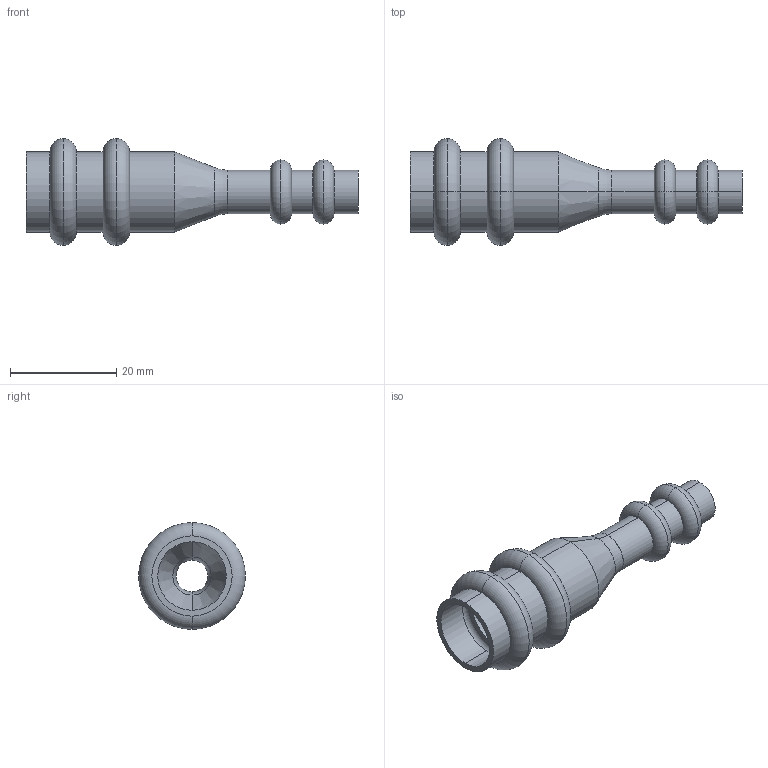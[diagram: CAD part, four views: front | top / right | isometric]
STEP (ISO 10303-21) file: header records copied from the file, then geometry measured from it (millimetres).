
FILE_DESCRIPTION(('starvars output'),'1');
FILE_NAME('cv20240422105238000011705.stp','10:52:38 2024/04/22',('Thomas Industrial Network Germany GmbH'),(' '),'Spatial InterOp 3D',' ',' ');
FILE_SCHEMA(('AUTOMOTIVE_DESIGN { 1 0 10303 214 3 1 1 }'));
Length unit declared in the file: millimetre
Products named in the file (1): 1
Bounding box: 62.5 x 20.1 x 20.1 mm (x, y, z)
Volume: 2963.3 mm3; surface area: 5568.7 mm2
Topology: 1 solids, 1 shells, 80 faces, 160 edges, 96 vertices
Faces by surface type: torus 36, cylinder 24, plane 16, cone 4
Entity records: 2788 total; most frequent: DIRECTION 454, CARTESIAN_POINT 337, ORIENTED_EDGE 320, AXIS2_PLACEMENT_3D 213, EDGE_CURVE 160, CIRCLE 132, EDGE_LOOP 96, VERTEX_POINT 96
